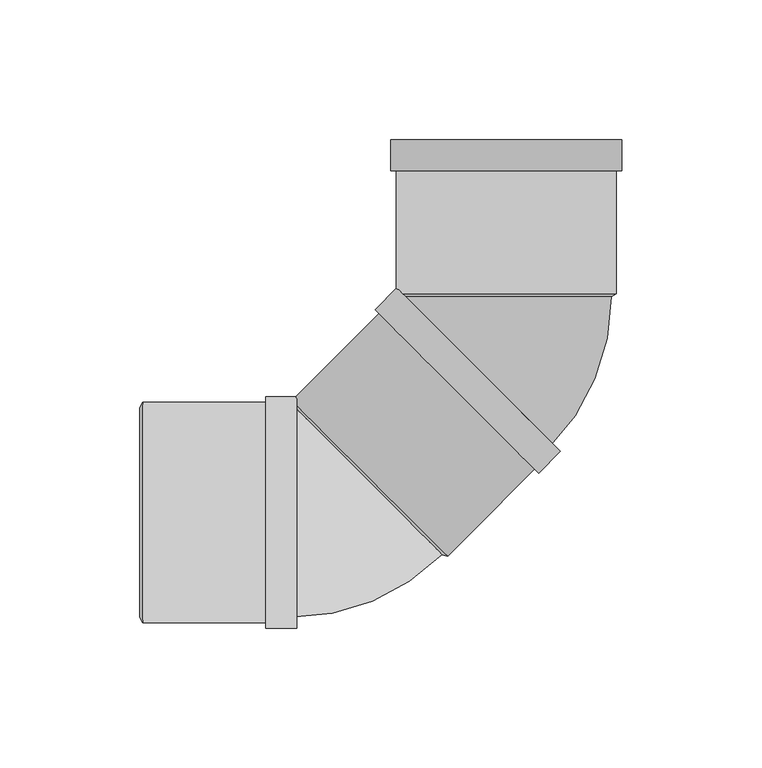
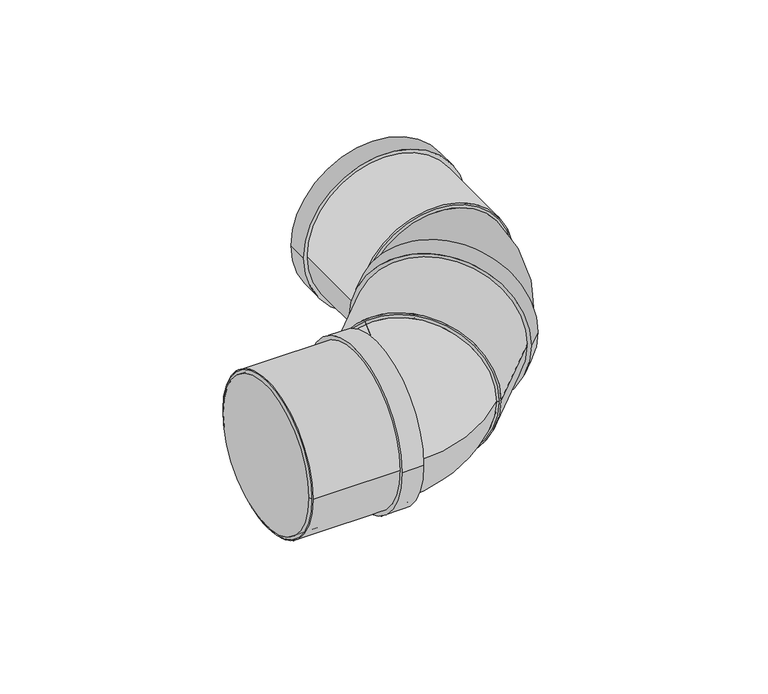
"""IFC4 building model written with IfcOpenShell, lengths in millimetres: pipe fitting geometry, Superdrain HT Bend Composite 2x45 : Superdrain HT Bend Composite 2x45."""

import ifcopenshell
import ifcopenshell.guid

model = None  # the IFC model being written
_history = None  # IfcOwnerHistory: only IFC2X3 demands one
_inside = {}  # id of a spatial element -> (the spatial element, [elements in it])
_under = {}  # id of a project, library or spatial element -> (it, [spatial elements below it])
_declared = {}  # id of a project -> (the project, [libraries it declares])
_typed = {}  # id of a type object -> (the type object, [elements of that type])
_made_of = {}  # id of a material, layer set ... -> (it, [elements and type objects made of it])


def new_model(schema):
    """Start an empty IFC model of exactly this schema.

    Asked for "IFC4X3", IfcOpenShell would pick the latest addendum, in which some entities
    have other attributes; the version numbers below select the first issue.
    IFC2X3 requires an IfcOwnerHistory on every rooted entity: one is made here for all.
    """
    global model, _history
    if schema == "IFC4X3":
        model = ifcopenshell.file(schema_version=(4, 3, 0, 0))
    else:
        model = ifcopenshell.file(schema=schema)
    _inside.clear()
    _under.clear()
    _declared.clear()
    _typed.clear()
    _made_of.clear()
    _history = None
    if model.schema == "IFC2X3":
        org = make("IfcOrganization", Name="unknown")
        user = make(
            "IfcPersonAndOrganization",
            ThePerson=make("IfcPerson", FamilyName="unknown"),
            TheOrganization=org,
        )
        app = make(
            "IfcApplication",
            ApplicationDeveloper=org,
            Version="unknown",
            ApplicationFullName="unknown",
            ApplicationIdentifier="unknown",
        )
        _history = make(
            "IfcOwnerHistory",
            OwningUser=user,
            OwningApplication=app,
            ChangeAction="ADDED",
            CreationDate=0,
        )
    return model


def make(cls, **values):
    """One entity of the class cls with the attributes given. An attribute that is None is left unset."""
    return model.create_entity(
        cls, **{name: value for name, value in values.items() if value is not None}
    )


def rooted(cls, **values):
    """An entity with a GlobalId (a new one), such as an element, a storey or a relation."""
    return make(cls, GlobalId=ifcopenshell.guid.new(), OwnerHistory=_history, **values)


def si_unit(unit_type, name, prefix=None):
    """IfcSIUnit, for example si_unit("LENGTHUNIT", "METRE", prefix="MILLI")."""
    return make("IfcSIUnit", UnitType=unit_type, Prefix=prefix, Name=name)


def assignment(units):
    """IfcUnitAssignment: the units of a project."""
    return None if units is None else make("IfcUnitAssignment", Units=units)


def point(xyz):
    """IfcCartesianPoint."""
    return None if xyz is None else make("IfcCartesianPoint", Coordinates=xyz)


def direction(xyz):
    """IfcDirection."""
    return None if xyz is None else make("IfcDirection", DirectionRatios=xyz)


def frame(location, z_axis=None, x_axis=None):
    """IfcAxis2Placement3D, a coordinate frame: its origin and axes. An axis left out is left unset."""
    return make(
        "IfcAxis2Placement3D",
        Location=point(location),
        Axis=direction(z_axis),
        RefDirection=direction(x_axis),
    )


def frame_2d(location, x_axis=None):
    """IfcAxis2Placement2D, a coordinate frame in the plane: its origin and x axis."""
    return make(
        "IfcAxis2Placement2D", Location=point(location), RefDirection=direction(x_axis)
    )


def origin():
    """The frame at (0, 0, 0) with its axes left unset."""
    return frame((0.0, 0.0, 0.0))


def origin_2d():
    """The frame at (0, 0) in the plane with its x axis left unset."""
    return frame_2d((0.0, 0.0))


def place(relative_to, where):
    """IfcLocalPlacement: puts the frame where relative to a parent placement (None: the world)."""
    return make(
        "IfcLocalPlacement", PlacementRelTo=relative_to, RelativePlacement=where
    )


def context(
    kind, dimensions, precision=None, world=None, true_north=None, identifier=None
):
    """IfcGeometricRepresentationContext, for example the 3D "Model" context."""
    return make(
        "IfcGeometricRepresentationContext",
        ContextIdentifier=identifier,
        ContextType=kind,
        CoordinateSpaceDimension=dimensions,
        Precision=precision,
        WorldCoordinateSystem=world,
        TrueNorth=true_north,
    )


def project(units=None, contexts=None):
    """IfcProject with its units and contexts."""
    return rooted(
        "IfcProject",
        Name="project",
        RepresentationContexts=contexts,
        UnitsInContext=assignment(units),
    )


def spatial(cls, under=None, at=None, **own):
    """A site, building, storey or space (cls), placed at a placement, below another one or the project."""
    s = rooted(cls, ObjectPlacement=at, **own)
    if under is not None:
        _under.setdefault(under.id(), (under, []))[1].append(s)
    return s


def polyline(points):
    """IfcPolyline through the points."""
    return make("IfcPolyline", Points=[point(p) for p in points])


def circle_curve(where, radius):
    """IfcCircle in the frame where."""
    return make("IfcCircle", Position=where, Radius=radius)


def ellipse_curve(where, semi_axis1, semi_axis2):
    """IfcEllipse in the frame where."""
    return make(
        "IfcEllipse", Position=where, SemiAxis1=semi_axis1, SemiAxis2=semi_axis2
    )


def trimmed(basis, trim1, trim2, sense, master):
    """IfcTrimmedCurve: the piece of a basis curve between two trims."""
    return make(
        "IfcTrimmedCurve",
        BasisCurve=basis,
        Trim1=trim1,
        Trim2=trim2,
        SenseAgreement=sense,
        MasterRepresentation=master,
    )


def segment(curve, same_sense, transition):
    """IfcCompositeCurveSegment."""
    return make(
        "IfcCompositeCurveSegment",
        Transition=transition,
        SameSense=same_sense,
        ParentCurve=curve,
    )


def composite_curve(segments, self_intersect=None):
    """IfcCompositeCurve: segments joined end to end."""
    return make("IfcCompositeCurve", Segments=segments, SelfIntersect=self_intersect)


def outline(outer, holes=None, kind="AREA"):
    """IfcArbitraryClosedProfileDef: a profile drawn as a closed curve; with holes, ...WithVoids."""
    if holes is None:
        return make("IfcArbitraryClosedProfileDef", ProfileType=kind, OuterCurve=outer)
    return make(
        "IfcArbitraryProfileDefWithVoids",
        ProfileType=kind,
        OuterCurve=outer,
        InnerCurves=holes,
    )


def extrude(swept, where, along, depth):
    """IfcExtrudedAreaSolid: the profile swept, set in the frame where, extruded along a direction by depth."""
    return make(
        "IfcExtrudedAreaSolid",
        SweptArea=swept,
        Position=where,
        ExtrudedDirection=direction(along),
        Depth=depth,
    )


def shape(context_of_items, identifier, shape_type, items):
    """IfcShapeRepresentation: the items that make up one representation, for example the "Body"."""
    return make(
        "IfcShapeRepresentation",
        ContextOfItems=context_of_items,
        RepresentationIdentifier=identifier,
        RepresentationType=shape_type,
        Items=items,
    )


def source(mapping_origin, context_of_items, identifier, shape_type, items):
    """IfcRepresentationMap: a shape defined once, which mapped items show again and again."""
    return make(
        "IfcRepresentationMap",
        MappingOrigin=mapping_origin,
        MappedRepresentation=shape(context_of_items, identifier, shape_type, items),
    )


def transform(
    local_origin,
    x_axis=None,
    y_axis=None,
    z_axis=None,
    scale=None,
    scale2=None,
    scale3=None,
    uniform=True,
):
    """IfcCartesianTransformationOperator3D, or its non-uniform kind. x_axis, y_axis, z_axis: its Axis1, 2, 3."""
    if uniform:
        return make(
            "IfcCartesianTransformationOperator3D",
            Axis1=direction(x_axis),
            Axis2=direction(y_axis),
            LocalOrigin=point(local_origin),
            Scale=scale,
            Axis3=direction(z_axis),
        )
    return make(
        "IfcCartesianTransformationOperator3DnonUniform",
        Axis1=direction(x_axis),
        Axis2=direction(y_axis),
        LocalOrigin=point(local_origin),
        Scale=scale,
        Axis3=direction(z_axis),
        Scale2=scale2,
        Scale3=scale3,
    )


def mapped(mapping_source, mapping_target):
    """IfcMappedItem: shows the shape of a source again, moved by a transform."""
    return make(
        "IfcMappedItem", MappingSource=mapping_source, MappingTarget=mapping_target
    )


def made_of(thing, what):
    """Note that an element or type object is made of a material, layer set ...; save() writes the relation."""
    if what is not None:
        _made_of.setdefault(what.id(), (what, []))[1].append(thing)
    return thing


def element(
    cls,
    number,
    at=None,
    inside=None,
    cuts=None,
    type_object=None,
    material=None,
    context=None,
    identifier="Body",
    shape_type=None,
    held_by="IfcProductDefinitionShape",
    body=None,
    shapes=None,
    **own,
):
    """One element of the class cls, such as IfcWall. Its Tag is "e" and its number.

    at: its placement. inside: the storey or other place that contains it. cuts: it is an
    opening in that element (IfcRelVoidsElement). A single representation is given by context,
    identifier, shape_type and body (its items); several are given by shapes. held_by: the class
    of the entity that holds the representations. save() writes the other relations.
    """
    e = rooted(cls, Tag="e%d" % number, ObjectPlacement=at, **own)
    if body is not None:
        shapes = [shape(context, identifier, shape_type, body)]
    if shapes is not None:
        e.Representation = make(held_by, Representations=shapes)
    if inside is not None:
        _inside.setdefault(inside.id(), (inside, []))[1].append(e)
    if cuts is not None:
        rooted(
            "IfcRelVoidsElement", RelatingBuildingElement=cuts, RelatedOpeningElement=e
        )
    if type_object is not None:
        _typed.setdefault(type_object.id(), (type_object, []))[1].append(e)
    return made_of(e, material)


def aggregate(whole, parts):
    """IfcRelAggregates: a whole, such as a stair, and the parts it consists of."""
    return rooted("IfcRelAggregates", RelatingObject=whole, RelatedObjects=parts)


def save(model, path):
    """Write the relations noted so far, then the file.

    IfcRelAggregates (storeys below a building ...), IfcRelContainedInSpatialStructure (elements
    in a storey), IfcRelDefinesByType, IfcRelAssociatesMaterial and IfcRelDeclares: one each for
    every whole, place, type object, material and project.
    """
    for whole, parts in _under.values():
        aggregate(whole, parts)
    for where, things in _inside.values():
        rooted(
            "IfcRelContainedInSpatialStructure",
            RelatedElements=things,
            RelatingStructure=where,
        )
    for kind, things in _typed.values():
        rooted("IfcRelDefinesByType", RelatedObjects=things, RelatingType=kind)
    for what, things in _made_of.values():
        rooted("IfcRelAssociatesMaterial", RelatedObjects=things, RelatingMaterial=what)
    for by, libraries in _declared.values():
        rooted("IfcRelDeclares", RelatingContext=by, RelatedDefinitions=libraries)
    model.write(path)


def plane_surface(at):
    """IfcPlane: the flat surface through the origin of the frame at, square to its z axis."""
    return make("IfcPlane", Position=at)


def revolved_surface(curve, axis_point, axis_direction):
    """IfcSurfaceOfRevolution: the curve turned about the line through axis_point along axis_direction."""
    return make(
        "IfcSurfaceOfRevolution",
        SweptCurve=make("IfcArbitraryOpenProfileDef", ProfileType="CURVE", Curve=curve),
        AxisPosition=make("IfcAxis1Placement", Location=point(axis_point), Axis=direction(axis_direction)),
    )


def advanced_brep(points, edges, surfaces, faces):
    """IfcAdvancedBrep: a solid bounded by faces that lie on surfaces and meet in shared edges.

    An edge is (start, end): straight between two places in points (the first is 0);
    or (start, end, curve); or (start, end, curve, False) where it runs against its curve.
    A face is (place in surfaces, loops), or (place, loops, False) where it looks against
    its surface's normal. A loop lists edges by number (the first is 1), with a minus sign
    where the edge is run from its end to its start. The first loop is the outer one.
    """
    corners = [point(p) for p in points]
    vertices = [make("IfcVertexPoint", VertexGeometry=c) for c in corners]
    made = []
    for start, end, *more in edges:
        made.append(
            make(
                "IfcEdgeCurve",
                EdgeStart=vertices[start],
                EdgeEnd=vertices[end],
                EdgeGeometry=more[0] if more else make("IfcPolyline", Points=[corners[start], corners[end]]),
                SameSense=more[1] if len(more) > 1 else True,
            )
        )
    hull = []
    for where, loops, *sense in faces:
        bounds = []
        for j, loop in enumerate(loops):
            ring = [make("IfcOrientedEdge", EdgeElement=made[abs(k) - 1], Orientation=k > 0) for k in loop]
            bounds.append(
                make(
                    "IfcFaceOuterBound" if j == 0 else "IfcFaceBound",
                    Bound=make("IfcEdgeLoop", EdgeList=ring),
                    Orientation=True,
                )
            )
        hull.append(make("IfcAdvancedFace", Bounds=bounds, FaceSurface=surfaces[where], SameSense=sense[0] if sense else True))
    return make("IfcAdvancedBrep", Outer=make("IfcClosedShell", CfsFaces=hull))


def pipe_fitting_66154b80(model_context):
    return source(origin(), model_context, "Body", "SolidModel", [
        advanced_brep(
        [(37.5, 77.1526045, 0.0), (-37.5, 77.1526045, 0.0), (15.0613744, 22.9809704, 0.0), (-37.9716341, 76.013979, 0.0)],
        [
            (0, 1, circle_curve(frame((0.0, 77.1526045, 0.0), z_axis=(0.0, 0.9999999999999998, 0.0), x_axis=(-0.9999999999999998, 0.0, 0.0)), 37.5)),
            (1, 0, circle_curve(frame((0.0, 77.1526045, 0.0), z_axis=(0.0, 0.9999999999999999, 0.0), x_axis=(-0.9999999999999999, 0.0, 0.0)), 37.5)),
            (2, 3, circle_curve(frame((-11.4551299, 49.4974747, 0.0), z_axis=(-0.7071067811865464, -0.7071067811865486, 0.0), x_axis=(-0.7071067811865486, 0.7071067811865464, 0.0)), 37.5)),
            (3, 2, circle_curve(frame((-11.4551299, 49.4974747, 0.0), z_axis=(-0.707106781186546, -0.7071067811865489, 0.0), x_axis=(-0.7071067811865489, 0.707106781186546, 0.0)), 37.5)),
            (3, 1, circle_curve(frame((-39.1102597, 77.1526045, 0.0), z_axis=(0.0, 0.0, 1.0), x_axis=(0.7071067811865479, 0.707106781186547, 0.0)), 1.6102597)),
            (0, 2, circle_curve(frame((-39.1102597, 77.1526045, 0.0), z_axis=(0.0, 0.0, -1.0), x_axis=(0.7071067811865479, 0.707106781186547, 0.0)), 76.6102597)),
        ],
        [
            plane_surface(frame((0.0, 77.1526045, 0.0), z_axis=(0.0, 1.0, 0.0), x_axis=(0.0, 0.0, -1.0))),
            plane_surface(frame((-11.4551299, 49.4974747, 0.0), z_axis=(-0.7071067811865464, -0.7071067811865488, 0.0), x_axis=(0.0, 0.0, -1.0))),
            revolved_surface(trimmed(ellipse_curve(frame((-11.4551299, 104.8077344, 0.0), z_axis=(0.7071067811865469, -0.707106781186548, 0.0), x_axis=(-0.707106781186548, -0.7071067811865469, 0.0)), 37.5, 37.5), [point((-37.9716341, 78.2912301, 0.0))], [point((15.0613744, 131.3242387, 0.0))], True, "CARTESIAN"), (-39.1102597, 77.1526045, 0.0), (0.0, 0.0, 1.0)),
            revolved_surface(trimmed(ellipse_curve(frame((-11.4551299, 104.8077344, 0.0), z_axis=(0.7071067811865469, -0.707106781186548, 0.0), x_axis=(-0.707106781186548, -0.7071067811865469, 0.0)), 37.5, 37.5), [point((15.0613744, 131.3242387, 0.0))], [point((-37.9716341, 78.2912301, 0.0))], True, "CARTESIAN"), (-39.1102597, 77.1526045, 0.0), (0.0, 0.0, 1.0)),
        ],
        [
            (0, [[1, 2]]),
            (1, [[3, 4]]),
            (2, [[-4, 5, -1, 6]]),
            (3, [[-3, -6, -2, -5]]),
        ],
    ),
        extrude(outline(composite_curve([segment(trimmed(circle_curve(origin_2d(), 39.375), [point((0.0, 39.375))], [point((0.0, -39.375))], False, "CARTESIAN"), True, "CONTINUOUS"), segment(trimmed(circle_curve(origin_2d(), 39.375), [point((0.0, -39.375))], [point((0.0, 39.375))], False, "CARTESIAN"), True, "CONTINUOUS")], self_intersect=False), holes=[composite_curve([segment(trimmed(circle_curve(origin_2d(), 37.5), [point((0.0, 37.5))], [point((0.0, -37.5))], True, "CARTESIAN"), True, "CONTINUOUS"), segment(trimmed(circle_curve(origin_2d(), 37.5), [point((0.0, -37.5))], [point((0.0, 37.5))], True, "CARTESIAN"), True, "CONTINUOUS")], self_intersect=False)]), frame((0.0, 78.1526045, 0.0), z_axis=(0.0, 1.0, 0.0), x_axis=(0.0, 0.0, 1.0)), (0.0, 0.0, 1.0), 55.0),
        extrude(outline(composite_curve([segment(trimmed(circle_curve(origin_2d(), 41.34375), [point((0.0, -41.34375))], [point((0.0, 41.34375))], False, "CARTESIAN"), True, "CONTINUOUS"), segment(trimmed(circle_curve(origin_2d(), 41.34375), [point((0.0, 41.34375))], [point((0.0, -41.34375))], False, "CARTESIAN"), True, "CONTINUOUS")], self_intersect=False), holes=[composite_curve([segment(trimmed(circle_curve(origin_2d(), 37.5), [point((0.0, -37.5))], [point((0.0, 37.5))], True, "CARTESIAN"), True, "CONTINUOUS"), segment(trimmed(circle_curve(origin_2d(), 37.5), [point((0.0, 37.5))], [point((0.0, -37.5))], True, "CARTESIAN"), True, "CONTINUOUS")], self_intersect=False)]), frame((0.0, 122.1526045, 0.0), z_axis=(0.0, 1.0, 0.0), x_axis=(0.0, 0.0, 1.0)), (0.0, 0.0, 1.0), 11.0),
        advanced_brep(
        [(39.375, 78.1526045, 0.0), (-39.375, 78.1526045, 0.0), (37.5, 77.1526045, 0.0), (-37.5, 77.1526045, 0.0)],
        [
            (0, 1, circle_curve(frame((0.0, 78.1526045, 0.0), z_axis=(0.0, 1.0, 0.0), x_axis=(1.0, 0.0, 0.0)), 39.375)),
            (1, 0, circle_curve(frame((0.0, 78.1526045, 0.0), z_axis=(0.0, 1.0, 0.0), x_axis=(-0.9999999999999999, 0.0, 0.0)), 39.375)),
            (2, 3, circle_curve(frame((0.0, 77.1526045, 0.0), z_axis=(0.0, -1.0, 0.0), x_axis=(-0.9999999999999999, 0.0, 0.0)), 37.5)),
            (3, 2, circle_curve(frame((0.0, 77.1526045, 0.0), z_axis=(0.0, -1.0, 0.0), x_axis=(1.0, 0.0, 0.0)), 37.5)),
            (3, 1),
            (0, 2),
        ],
        [
            plane_surface(frame((0.0, 78.1526045, 0.0), z_axis=(0.0, 1.0, 0.0), x_axis=(0.0, 0.0, -1.0))),
            plane_surface(frame((0.0, 77.1526045, 0.0), z_axis=(0.0, -1.0, 0.0), x_axis=(0.0, 0.0, -1.0))),
            revolved_surface(polyline([(-37.5, 77.1526045, 0.0), (-39.375, 78.1526045, 0.0)]), (0.0, 57.1526045, 0.0), (0.0, 0.9999999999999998, 0.0)),
            revolved_surface(polyline([(37.5, 77.1526045, 0.0), (39.375, 78.1526045, 0.0)]), (0.0, 57.1526045, 0.0), (0.0, 0.9999999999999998, 0.0)),
        ],
        [
            (0, [[1, 2]]),
            (1, [[3, 4]]),
            (2, [[-4, 5, -1, 6]]),
            (3, [[-3, -6, -2, -5]]),
        ],
    ),
        extrude(outline(composite_curve([segment(trimmed(circle_curve(origin_2d(), 37.5), [point((0.0, -37.5))], [point((0.0, 37.5))], False, "CARTESIAN"), True, "CONTINUOUS"), segment(trimmed(circle_curve(origin_2d(), 37.5), [point((0.0, 37.5))], [point((0.0, -37.5))], False, "CARTESIAN"), True, "CONTINUOUS")], self_intersect=False)), frame((-48.7903679, 12.1622366, 0.0), z_axis=(0.707106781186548, 0.7071067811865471, 0.0), x_axis=(0.0, 0.0, -1.0)), (0.0, 0.0, 1.0), 52.8),
        extrude(outline(composite_curve([segment(trimmed(circle_curve(origin_2d(), 39.375), [point((39.375, 0.0))], [point((-39.375, 0.0))], False, "CARTESIAN"), True, "CONTINUOUS"), segment(trimmed(circle_curve(origin_2d(), 39.375), [point((-39.375, 0.0))], [point((39.375, 0.0))], False, "CARTESIAN"), True, "CONTINUOUS")], self_intersect=False), holes=[composite_curve([segment(trimmed(circle_curve(origin_2d(), 37.5), [point((37.5, 0.0))], [point((-37.5, 0.0))], True, "CARTESIAN"), True, "CONTINUOUS"), segment(trimmed(circle_curve(origin_2d(), 37.5), [point((-37.5, 0.0))], [point((37.5, 0.0))], True, "CARTESIAN"), True, "CONTINUOUS")], self_intersect=False)]), frame((-129.9526045, 0.0, 0.0), z_axis=(1.0, 0.0, 0.0), x_axis=(0.0, 1.0, 0.0)), (0.0, 0.0, 1.0), 55.0),
        extrude(outline(composite_curve([segment(trimmed(circle_curve(origin_2d(), 41.34375), [point((41.34375, 0.0))], [point((-41.34375, 0.0))], False, "CARTESIAN"), True, "CONTINUOUS"), segment(trimmed(circle_curve(origin_2d(), 41.34375), [point((-41.34375, 0.0))], [point((41.34375, 0.0))], False, "CARTESIAN"), True, "CONTINUOUS")], self_intersect=False), holes=[composite_curve([segment(trimmed(circle_curve(origin_2d(), 37.5), [point((37.5, 0.0))], [point((-37.5, 0.0))], True, "CARTESIAN"), True, "CONTINUOUS"), segment(trimmed(circle_curve(origin_2d(), 37.5), [point((-37.5, 0.0))], [point((37.5, 0.0))], True, "CARTESIAN"), True, "CONTINUOUS")], self_intersect=False)]), frame((-85.9526045, 0.0, 0.0), z_axis=(1.0, 0.0, 0.0), x_axis=(0.0, 1.0, 0.0)), (0.0, 0.0, 1.0), 11.0),
        advanced_brep(
        [(-130.9526045, 37.5, 0.0), (-130.9526045, -37.5, 0.0), (-129.9526045, 39.375, 0.0), (-129.9526045, -39.375, 0.0)],
        [
            (0, 1, circle_curve(frame((-130.9526045, 0.0, 0.0), z_axis=(-1.0, 0.0, 0.0), x_axis=(0.0, 1.0000000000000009, 0.0)), 37.5)),
            (1, 0, circle_curve(frame((-130.9526045, 0.0, 0.0), z_axis=(-1.0, 0.0, 0.0), x_axis=(0.0, -1.0000000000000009, 0.0)), 37.5)),
            (2, 3, circle_curve(frame((-129.9526045, 0.0, 0.0), z_axis=(1.0, 0.0, 0.0), x_axis=(0.0, -1.0000000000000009, 0.0)), 39.375)),
            (3, 2, circle_curve(frame((-129.9526045, 0.0, 0.0), z_axis=(1.0, 0.0, 0.0), x_axis=(0.0, 1.0000000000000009, 0.0)), 39.375)),
            (3, 1),
            (0, 2),
        ],
        [
            plane_surface(frame((-130.9526045, 0.0, 0.0), z_axis=(-1.0, 0.0, 0.0), x_axis=(0.0, 0.0, -1.0))),
            plane_surface(frame((-129.9526045, 0.0, 0.0), z_axis=(1.0, 0.0, 0.0), x_axis=(0.0, 0.0, -1.0))),
            revolved_surface(polyline([(-130.9526045, 37.49999999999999, 0.0), (-129.9526045, 39.375, 0.0)]), (-150.9526045, 0.0, 0.0), (1.0000000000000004, 0.0, 0.0)),
            revolved_surface(polyline([(-130.9526045, -37.49999999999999, 0.0), (-129.9526045, -39.375, 0.0)]), (-150.9526045, 0.0, 0.0), (1.0000000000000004, 0.0, 0.0)),
        ],
        [
            (0, [[1, 2]]),
            (1, [[3, 4]]),
            (2, [[-4, 5, -1, 6]]),
            (3, [[-3, -6, -2, -5]]),
        ],
    ),
        advanced_brep(
        [(-22.9809704, -15.0613744, 0.0), (-76.013979, 37.9716341, 0.0), (-77.1526045, -37.5, 0.0), (-77.1526045, 37.5, 0.0)],
        [
            (0, 1, circle_curve(frame((-49.4974747, 11.4551299, 0.0), z_axis=(0.7071067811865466, 0.7071067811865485, 0.0), x_axis=(-0.7071067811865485, 0.7071067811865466, 0.0)), 37.5)),
            (1, 0, circle_curve(frame((-49.4974747, 11.4551299, 0.0), z_axis=(0.7071067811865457, 0.7071067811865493, 0.0), x_axis=(-0.7071067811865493, 0.7071067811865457, 0.0)), 37.5)),
            (2, 3, circle_curve(frame((-77.1526045, 0.0, 0.0), z_axis=(-1.0, 0.0, 0.0), x_axis=(0.0, 1.0, 0.0)), 37.5)),
            (3, 2, circle_curve(frame((-77.1526045, 0.0, 0.0), z_axis=(-1.0, 0.0, 0.0), x_axis=(0.0, 1.0, 0.0)), 37.5)),
            (3, 1, circle_curve(frame((-77.1526045, 39.1102597, 0.0), z_axis=(0.0, 0.0, 1.0), x_axis=(1.0, 0.0, 0.0)), 1.6102597)),
            (0, 2, circle_curve(frame((-77.1526045, 39.1102597, 0.0), z_axis=(0.0, 0.0, -1.0), x_axis=(1.0, 0.0, 0.0)), 76.6102597)),
        ],
        [
            plane_surface(frame((-49.4974747, 11.4551299, 0.0), z_axis=(0.7071067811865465, 0.7071067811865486, 0.0), x_axis=(0.0, 0.0, -1.0))),
            plane_surface(frame((-77.1526045, 0.0, 0.0), z_axis=(-1.0, 0.0, 0.0), x_axis=(0.0, 0.0, -1.0))),
            revolved_surface(trimmed(ellipse_curve(frame((-38.0423448, 39.1102597, 0.0), z_axis=(0.0, -1.0, 0.0), x_axis=(-1.0, 0.0, 0.0)), 37.5, 37.5), [point((-75.5423448, 39.1102597, 0.0))], [point((-0.5423448, 39.1102597, 0.0))], True, "CARTESIAN"), (-77.1526045, 39.1102597, 0.0), (0.0, 0.0, 1.0)),
            revolved_surface(trimmed(ellipse_curve(frame((-38.0423448, 39.1102597, 0.0), z_axis=(0.0, -1.0, 0.0), x_axis=(-1.0, 0.0, 0.0)), 37.5, 37.5), [point((-0.5423448, 39.1102597, 0.0))], [point((-75.5423448, 39.1102597, 0.0))], True, "CARTESIAN"), (-77.1526045, 39.1102597, 0.0), (0.0, 0.0, 1.0)),
        ],
        [
            (0, [[1, 2]]),
            (1, [[3, 4]]),
            (2, [[-4, 5, -1, 6]]),
            (3, [[-3, -6, -2, -5]]),
        ],
    ),
        extrude(outline(composite_curve([segment(trimmed(circle_curve(origin_2d(), 39.375), [point((0.0, 39.375))], [point((0.0, -39.375))], False, "CARTESIAN"), True, "CONTINUOUS"), segment(trimmed(circle_curve(origin_2d(), 39.375), [point((0.0, -39.375))], [point((0.0, 39.375))], False, "CARTESIAN"), True, "CONTINUOUS")], self_intersect=False), holes=[composite_curve([segment(trimmed(circle_curve(origin_2d(), 37.5), [point((0.0, 37.5))], [point((0.0, -37.5))], True, "CARTESIAN"), True, "CONTINUOUS"), segment(trimmed(circle_curve(origin_2d(), 37.5), [point((0.0, -37.5))], [point((0.0, 37.5))], True, "CARTESIAN"), True, "CONTINUOUS")], self_intersect=False)]), frame((-48.7903679, 12.1622366, 0.0), z_axis=(0.7071067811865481, 0.707106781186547, 0.0), x_axis=(0.0, 0.0, 1.0)), (0.0, 0.0, 1.0), 55.0),
        extrude(outline(composite_curve([segment(trimmed(circle_curve(origin_2d(), 41.34375), [point((0.0, -41.34375))], [point((0.0, 41.34375))], False, "CARTESIAN"), True, "CONTINUOUS"), segment(trimmed(circle_curve(origin_2d(), 41.34375), [point((0.0, 41.34375))], [point((0.0, -41.34375))], False, "CARTESIAN"), True, "CONTINUOUS")], self_intersect=False), holes=[composite_curve([segment(trimmed(circle_curve(origin_2d(), 37.5), [point((0.0, -37.5))], [point((0.0, 37.5))], True, "CARTESIAN"), True, "CONTINUOUS"), segment(trimmed(circle_curve(origin_2d(), 37.5), [point((0.0, 37.5))], [point((0.0, -37.5))], True, "CARTESIAN"), True, "CONTINUOUS")], self_intersect=False)]), frame((-17.6776695, 43.274935, 0.0), z_axis=(0.7071067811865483, 0.7071067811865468, 0.0), x_axis=(0.0, 0.0, 1.0)), (0.0, 0.0, 1.0), 11.0),
        advanced_brep(
        [(-20.9480384, -15.6800929, 0.0), (-76.6326974, 40.0045661, 0.0), (-22.9809704, -15.0613744, 0.0), (-76.013979, 37.9716341, 0.0)],
        [
            (0, 1, circle_curve(frame((-48.7903679, 12.1622366, 0.0), z_axis=(0.7071067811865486, 0.7071067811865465, 0.0), x_axis=(0.7071067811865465, -0.7071067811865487, 0.0)), 39.375)),
            (1, 0, circle_curve(frame((-48.7903679, 12.1622366, 0.0), z_axis=(0.7071067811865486, 0.7071067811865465, 0.0), x_axis=(-0.7071067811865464, 0.7071067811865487, 0.0)), 39.375)),
            (2, 3, circle_curve(frame((-49.4974747, 11.4551299, 0.0), z_axis=(-0.7071067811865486, -0.7071067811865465, 0.0), x_axis=(-0.7071067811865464, 0.7071067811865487, 0.0)), 37.5)),
            (3, 2, circle_curve(frame((-49.4974747, 11.4551299, 0.0), z_axis=(-0.7071067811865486, -0.7071067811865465, 0.0), x_axis=(0.7071067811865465, -0.7071067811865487, 0.0)), 37.5)),
            (3, 1),
            (0, 2),
        ],
        [
            plane_surface(frame((-48.7903679, 12.1622366, 0.0), z_axis=(0.7071067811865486, 0.7071067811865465, 0.0), x_axis=(0.0, 0.0, -1.0))),
            plane_surface(frame((-49.4974747, 11.4551299, 0.0), z_axis=(-0.7071067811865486, -0.7071067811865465, 0.0), x_axis=(0.0, 0.0, -1.0))),
            revolved_surface(polyline([(-76.01397895, 37.97163405, 0.0), (-76.63269740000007, 40.004566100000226, 0.0)]), (-63.6396103, -2.6870058, 0.0), (0.7071067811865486, 0.7071067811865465, 0.0)),
            revolved_surface(polyline([(-22.98097045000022, -15.061374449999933, 0.0), (-20.9480384, -15.6800929, 0.0)]), (-63.6396103, -2.6870058, 0.0), (0.7071067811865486, 0.7071067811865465, 0.0)),
        ],
        [
            (0, [[1, 2]]),
            (1, [[3, 4]]),
            (2, [[-4, 5, -1, 6]]),
            (3, [[-3, -6, -2, -5]]),
        ],
    ),
        extrude(outline(composite_curve([segment(trimmed(circle_curve(origin_2d(), 37.5), [point((-37.5, 0.0))], [point((37.5, 0.0))], False, "CARTESIAN"), True, "CONTINUOUS"), segment(trimmed(circle_curve(origin_2d(), 37.5), [point((37.5, 0.0))], [point((-37.5, 0.0))], False, "CARTESIAN"), True, "CONTINUOUS")], self_intersect=False)), frame((-129.9526045, 0.0, 0.0), z_axis=(1.0, 0.0, 0.0), x_axis=(0.0, 1.0, 0.0)), (0.0, 0.0, 1.0), 52.8),
    ])


if __name__ == "__main__":
    model = new_model("IFC4")
    model_context = context("Model", 3, world=origin())
    ifc_project = project(units=[si_unit("LENGTHUNIT", "METRE", prefix="MILLI")], contexts=[model_context])
    site = spatial("IfcSite", under=ifc_project)
    building = spatial("IfcBuilding", under=site)
    placement = place(None, origin())
    pipe_fitting_shape = pipe_fitting_66154b80(model_context)
    element("IfcPipeFitting", 1, ObjectType="Superdrain HT Bend Composite 2x45 : Superdrain HT Bend Composite 2x45", at=placement, inside=building, context=model_context, shape_type="MappedRepresentation", body=[
        mapped(pipe_fitting_shape, transform((0.0, 0.0, 0.0), x_axis=(1.0, 0.0, 0.0), y_axis=(0.0, 1.0, 0.0), z_axis=(0.0, 0.0, 1.0))),
    ])
    save(model, "model.ifc")
